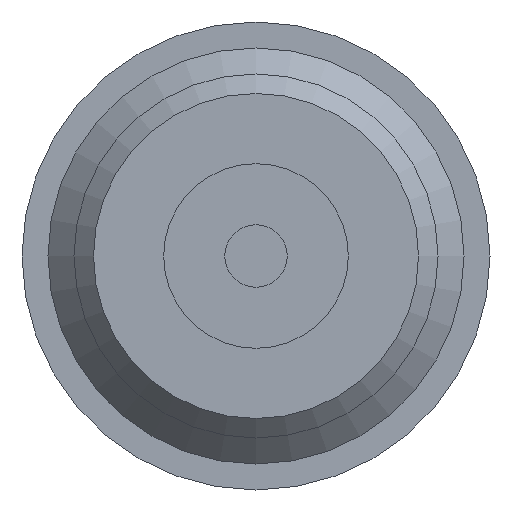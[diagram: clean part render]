
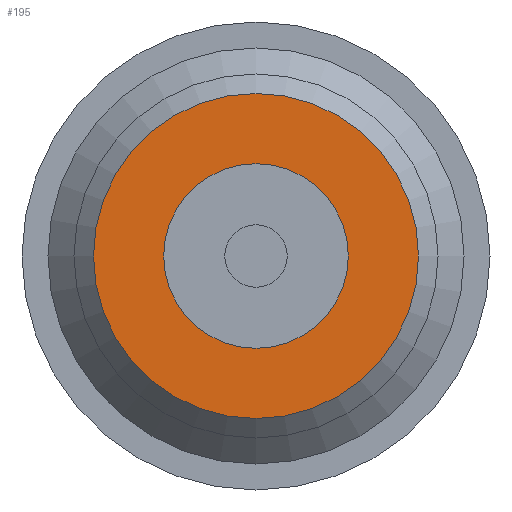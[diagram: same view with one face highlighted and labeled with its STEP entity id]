
A CAD part, front view. The second image highlights one B-rep face of the part: STEP entity #195.
In plain terms, the highlighted planar face has unit normal (0, -1, 0) as drawn and (0, 0, 1) by its records, which use the part's own axes.
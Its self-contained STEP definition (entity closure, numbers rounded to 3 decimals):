
#195 = ADVANCED_FACE( '', ( #413, #414 ), #415, .T. );
#413 = FACE_OUTER_BOUND( '', #621, .T. );
#414 = FACE_BOUND( '', #622, .T. );
#415 = PLANE( '', #623 );
#621 = EDGE_LOOP( '', ( #899 ) );
#622 = EDGE_LOOP( '', ( #900 ) );
#623 = AXIS2_PLACEMENT_3D( '', #901, #902, #903 );
#899 = ORIENTED_EDGE( '', *, *, #1026, .T. );
#900 = ORIENTED_EDGE( '', *, *, #963, .F. );
#901 = CARTESIAN_POINT( '', ( 3.55, 0., 0. ) );
#902 = DIRECTION( '', ( 0., 0., 1. ) );
#903 = DIRECTION( '', ( 1., 0., 0. ) );
#963 = EDGE_CURVE( '', #1078, #1078, #1079, .T. );
#1026 = EDGE_CURVE( '', #1172, #1172, #1173, .T. );
#1078 = VERTEX_POINT( '', #1429 );
#1079 = CIRCLE( '', #1430, 3.55 );
#1172 = VERTEX_POINT( '', #1727 );
#1173 = CIRCLE( '', #1728, 6.25 );
#1429 = CARTESIAN_POINT( '', ( 3.55, 0., 0. ) );
#1430 = AXIS2_PLACEMENT_3D( '', #1776, #1777, #1778 );
#1727 = CARTESIAN_POINT( '', ( 6.25, 0., 0. ) );
#1728 = AXIS2_PLACEMENT_3D( '', #1857, #1858, #1859 );
#1776 = CARTESIAN_POINT( '', ( 0., 0., 0. ) );
#1777 = DIRECTION( '', ( 0., 0., 1. ) );
#1778 = DIRECTION( '', ( 1., 0., 0. ) );
#1857 = CARTESIAN_POINT( '', ( 0., 0., 0. ) );
#1858 = DIRECTION( '', ( 0., 0., 1. ) );
#1859 = DIRECTION( '', ( 1., 0., 0. ) );
